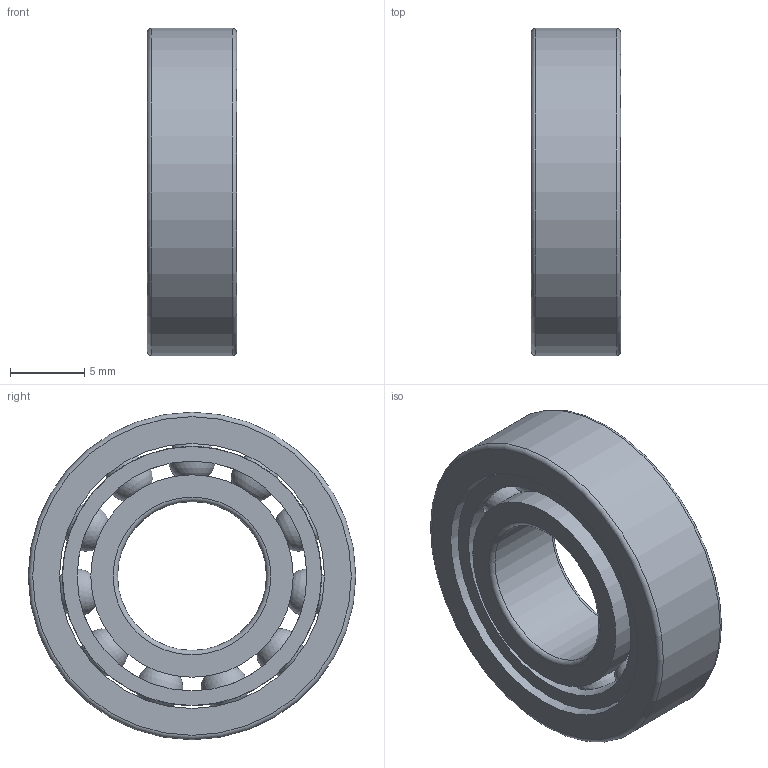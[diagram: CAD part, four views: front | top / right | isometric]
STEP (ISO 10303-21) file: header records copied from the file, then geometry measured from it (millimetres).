
FILE_DESCRIPTION(/* description */ (''),/* implementation_level */ '2;1');
FILE_NAME(/* name */ 'S_61900_TA.step',/* time_stamp */ '2013-03-06T14:46:46+01:00',/* author */ ('Marian'),/* organization */ ('GMN'),/* preprocessor_version */ 'ST-DEVELOPER v11',/* originating_system */ 'SIEMENS UGS NX 6.0',/* authorisation */ '');
FILE_SCHEMA (('CONFIG_CONTROL_DESIGN'));
Length unit declared in the file: millimetre
Products named in the file (1): S_61900_TA
Bounding box: 6 x 22 x 22 mm (x, y, z)
Volume: 1376.5 mm3; surface area: 2447.7 mm2
Topology: 14 solids, 14 shells, 42 faces, 100 edges, 64 vertices
Faces by surface type: cylinder 18, sphere 11, torus 6, plane 6, cone 1
Full cylindrical faces by diameter (mm): 3.375 x11, 10 x1, 13.6 x2, 15.435 x1, 17.4 x1, 17.8 x1, 22 x1
Entity records: 2192 total; most frequent: CARTESIAN_POINT 1392, DIRECTION 126, FACE_BOUND 95, EDGE_LOOP 84, ORIENTED_EDGE 84, AXIS2_PLACEMENT_3D 63, VERTEX_POINT 53, EDGE_CURVE 42
